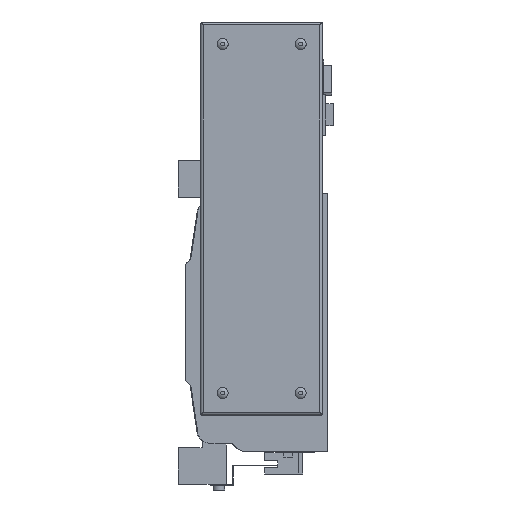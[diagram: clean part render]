
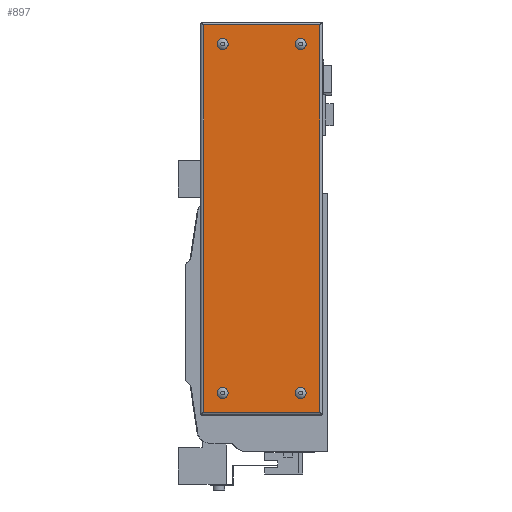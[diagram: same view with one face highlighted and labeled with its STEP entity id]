
A CAD part, left-side view. The second image highlights one B-rep face of the part: STEP entity #897.
In plain terms, the highlighted planar face has unit normal (-1, 0, 0).
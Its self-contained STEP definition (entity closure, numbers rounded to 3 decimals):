
#897 = ADVANCED_FACE( '', ( #2172, #2173, #2174, #2175, #2176 ), #2177, .F. );
#2172 = FACE_BOUND( '', #3975, .T. );
#2173 = FACE_BOUND( '', #3976, .T. );
#2174 = FACE_BOUND( '', #3977, .T. );
#2175 = FACE_BOUND( '', #3978, .T. );
#2176 = FACE_OUTER_BOUND( '', #3979, .T. );
#2177 = PLANE( '', #3980 );
#3975 = EDGE_LOOP( '', ( #6261 ) );
#3976 = EDGE_LOOP( '', ( #6262 ) );
#3977 = EDGE_LOOP( '', ( #6263 ) );
#3978 = EDGE_LOOP( '', ( #6264 ) );
#3979 = EDGE_LOOP( '', ( #6265, #6266, #6267, #6268 ) );
#3980 = AXIS2_PLACEMENT_3D( '', #6269, #6270, #6271 );
#6261 = ORIENTED_EDGE( '', *, *, #10892, .F. );
#6262 = ORIENTED_EDGE( '', *, *, #10459, .F. );
#6263 = ORIENTED_EDGE( '', *, *, #10893, .F. );
#6264 = ORIENTED_EDGE( '', *, *, #10711, .F. );
#6265 = ORIENTED_EDGE( '', *, *, #10666, .F. );
#6266 = ORIENTED_EDGE( '', *, *, #10894, .F. );
#6267 = ORIENTED_EDGE( '', *, *, #10895, .T. );
#6268 = ORIENTED_EDGE( '', *, *, #10896, .T. );
#6269 = CARTESIAN_POINT( '', ( -66., 0., 0. ) );
#6270 = DIRECTION( '', ( 1., 0., 0. ) );
#6271 = DIRECTION( '', ( 0., 0., -1. ) );
#10459 = EDGE_CURVE( '', #12416, #12416, #12417, .F. );
#10666 = EDGE_CURVE( '', #12787, #12789, #12790, .T. );
#10711 = EDGE_CURVE( '', #12863, #12863, #12864, .F. );
#10892 = EDGE_CURVE( '', #13176, #13176, #13177, .F. );
#10893 = EDGE_CURVE( '', #13178, #13178, #13179, .F. );
#10894 = EDGE_CURVE( '', #13180, #12787, #13181, .T. );
#10895 = EDGE_CURVE( '', #13180, #13182, #13183, .T. );
#10896 = EDGE_CURVE( '', #13182, #12789, #13184, .T. );
#12416 = VERTEX_POINT( '', #15311 );
#12417 = CIRCLE( '', #15312, 3.7 );
#12787 = VERTEX_POINT( '', #15817 );
#12789 = VERTEX_POINT( '', #15819 );
#12790 = LINE( '', #15820, #15821 );
#12863 = VERTEX_POINT( '', #15921 );
#12864 = CIRCLE( '', #15922, 3.7 );
#13176 = VERTEX_POINT( '', #16348 );
#13177 = CIRCLE( '', #16349, 3.7 );
#13178 = VERTEX_POINT( '', #16350 );
#13179 = CIRCLE( '', #16351, 3.7 );
#13180 = VERTEX_POINT( '', #16352 );
#13181 = LINE( '', #16353, #16354 );
#13182 = VERTEX_POINT( '', #16355 );
#13183 = LINE( '', #16356, #16357 );
#13184 = LINE( '', #16358, #16359 );
#15311 = CARTESIAN_POINT( '', ( -66., 18.5, -51.7 ) );
#15312 = AXIS2_PLACEMENT_3D( '', #19150, #19151, #19152 );
#15817 = CARTESIAN_POINT( '', ( -66., 5.5, 202. ) );
#15819 = CARTESIAN_POINT( '', ( -66., 5.5, -61. ) );
#15820 = CARTESIAN_POINT( '', ( -66., 5.5, 267. ) );
#15821 = VECTOR( '', #19393, 1000. );
#15921 = CARTESIAN_POINT( '', ( -66., 71.5, -51.7 ) );
#15922 = AXIS2_PLACEMENT_3D( '', #19442, #19443, #19444 );
#16348 = CARTESIAN_POINT( '', ( -66., 18.5, 185.3 ) );
#16349 = AXIS2_PLACEMENT_3D( '', #19667, #19668, #19669 );
#16350 = CARTESIAN_POINT( '', ( -66., 71.5, 185.3 ) );
#16351 = AXIS2_PLACEMENT_3D( '', #19670, #19671, #19672 );
#16352 = CARTESIAN_POINT( '', ( -66., 84.5, 202. ) );
#16353 = CARTESIAN_POINT( '', ( -66., 267., 202. ) );
#16354 = VECTOR( '', #19673, 1000. );
#16355 = CARTESIAN_POINT( '', ( -66., 84.5, -61. ) );
#16356 = CARTESIAN_POINT( '', ( -66., 84.5, 267. ) );
#16357 = VECTOR( '', #19674, 1000. );
#16358 = CARTESIAN_POINT( '', ( -66., 267., -61. ) );
#16359 = VECTOR( '', #19675, 1000. );
#19150 = CARTESIAN_POINT( '', ( -66., 18.5, -48. ) );
#19151 = DIRECTION( '', ( 1., 0., 0. ) );
#19152 = DIRECTION( '', ( 0., 0., -1. ) );
#19393 = DIRECTION( '', ( 0., 0., -1. ) );
#19442 = CARTESIAN_POINT( '', ( -66., 71.5, -48. ) );
#19443 = DIRECTION( '', ( 1., 0., 0. ) );
#19444 = DIRECTION( '', ( 0., 0., -1. ) );
#19667 = CARTESIAN_POINT( '', ( -66., 18.5, 189. ) );
#19668 = DIRECTION( '', ( 1., 0., 0. ) );
#19669 = DIRECTION( '', ( 0., 0., -1. ) );
#19670 = CARTESIAN_POINT( '', ( -66., 71.5, 189. ) );
#19671 = DIRECTION( '', ( 1., 0., 0. ) );
#19672 = DIRECTION( '', ( 0., 0., -1. ) );
#19673 = DIRECTION( '', ( 0., -1., 0. ) );
#19674 = DIRECTION( '', ( 0., 0., -1. ) );
#19675 = DIRECTION( '', ( 0., -1., 0. ) );
